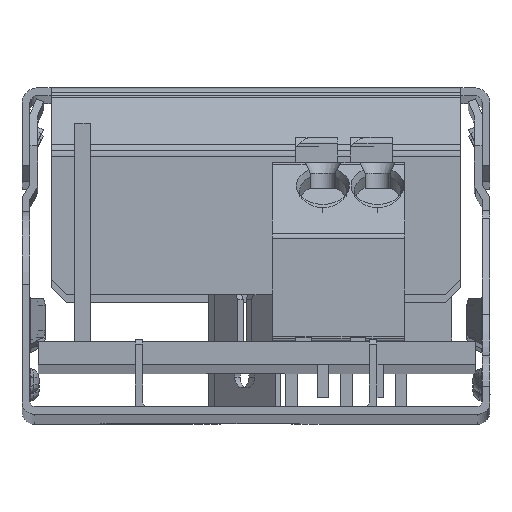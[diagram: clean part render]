
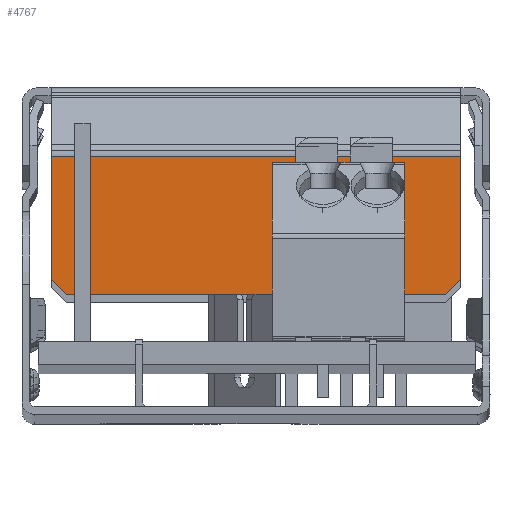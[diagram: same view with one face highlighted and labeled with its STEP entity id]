
A CAD part, top view. The second image highlights one B-rep face of the part: STEP entity #4767.
In plain terms, the highlighted planar face has unit normal (0, 0, 1).
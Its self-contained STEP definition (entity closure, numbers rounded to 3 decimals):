
#331 = LINE ( 'NONE', #15921, #24138 ) ;
#493 = EDGE_CURVE ( 'NONE', #25384, #12499, #12870, .T. ) ;
#2275 = DIRECTION ( 'NONE',  ( -1., 0., 0. ) ) ;
#2654 = CARTESIAN_POINT ( 'NONE',  ( 13.135, 8.735, 517.991 ) ) ;
#3248 = CARTESIAN_POINT ( 'NONE',  ( -13.155, 8.755, 517.991 ) ) ;
#3352 = VECTOR ( 'NONE', #18666, 1000. ) ;
#4262 = CARTESIAN_POINT ( 'NONE',  ( -13.135, 12.176, 517.991 ) ) ;
#4767 = ADVANCED_FACE ( 'NONE', ( #6783 ), #6611, .T. ) ;
#5739 = LINE ( 'NONE', #16182, #8844 ) ;
#5825 = LINE ( 'NONE', #3248, #3352 ) ;
#6611 = PLANE ( 'NONE',  #22374 ) ;
#6642 = ORIENTED_EDGE ( 'NONE', *, *, #8421, .F. ) ;
#6783 = FACE_OUTER_BOUND ( 'NONE', #23264, .T. ) ;
#7802 = EDGE_CURVE ( 'NONE', #25384, #14969, #5739, .T. ) ;
#8421 = EDGE_CURVE ( 'NONE', #14969, #13482, #331, .T. ) ;
#8467 = EDGE_CURVE ( 'NONE', #26275, #11261, #5825, .T. ) ;
#8725 = DIRECTION ( 'NONE',  ( -0.707, -0.707, 0. ) ) ;
#8844 = VECTOR ( 'NONE', #24250, 1000. ) ;
#10533 = CARTESIAN_POINT ( 'NONE',  ( -12.135, 7.735, 517.991 ) ) ;
#11259 = CARTESIAN_POINT ( 'NONE',  ( 12.135, 7.735, 517.991 ) ) ;
#11261 = VERTEX_POINT ( 'NONE', #16477 ) ;
#11882 = VECTOR ( 'NONE', #22433, 1000. ) ;
#12464 = LINE ( 'NONE', #4262, #11882 ) ;
#12476 = VECTOR ( 'NONE', #25581, 1000. ) ;
#12499 = VERTEX_POINT ( 'NONE', #27796 ) ;
#12524 = LINE ( 'NONE', #23180, #12476 ) ;
#12870 = LINE ( 'NONE', #25590, #20278 ) ;
#13375 = ORIENTED_EDGE ( 'NONE', *, *, #7802, .F. ) ;
#13482 = VERTEX_POINT ( 'NONE', #11259 ) ;
#14831 = DIRECTION ( 'NONE',  ( 0., 0., 1. ) ) ;
#14969 = VERTEX_POINT ( 'NONE', #2654 ) ;
#15894 = ORIENTED_EDGE ( 'NONE', *, *, #20220, .F. ) ;
#15921 = CARTESIAN_POINT ( 'NONE',  ( 12.115, 7.715, 517.991 ) ) ;
#16182 = CARTESIAN_POINT ( 'NONE',  ( 13.135, 12.176, 517.991 ) ) ;
#16477 = CARTESIAN_POINT ( 'NONE',  ( -13.135, 8.735, 517.991 ) ) ;
#17065 = CARTESIAN_POINT ( 'NONE',  ( 13.661, 17.01, 517.991 ) ) ;
#18666 = DIRECTION ( 'NONE',  ( -0.707, 0.707, 0. ) ) ;
#20220 = EDGE_CURVE ( 'NONE', #13482, #26275, #12524, .T. ) ;
#20278 = VECTOR ( 'NONE', #2275, 1000. ) ;
#22374 = AXIS2_PLACEMENT_3D ( 'NONE', #17065, #14831, #33389 ) ;
#22433 = DIRECTION ( 'NONE',  ( 0., 1., 0. ) ) ;
#23180 = CARTESIAN_POINT ( 'NONE',  ( 0., 7.735, 517.991 ) ) ;
#23264 = EDGE_LOOP ( 'NONE', ( #29638, #15894, #6642, #13375, #26419, #29594 ) ) ;
#24138 = VECTOR ( 'NONE', #8725, 1000. ) ;
#24250 = DIRECTION ( 'NONE',  ( 0., -1., 0. ) ) ;
#25384 = VERTEX_POINT ( 'NONE', #29235 ) ;
#25581 = DIRECTION ( 'NONE',  ( -1., 0., 0. ) ) ;
#25590 = CARTESIAN_POINT ( 'NONE',  ( 0., 16.617, 517.991 ) ) ;
#26275 = VERTEX_POINT ( 'NONE', #10533 ) ;
#26419 = ORIENTED_EDGE ( 'NONE', *, *, #493, .T. ) ;
#27796 = CARTESIAN_POINT ( 'NONE',  ( -13.135, 16.617, 517.991 ) ) ;
#29235 = CARTESIAN_POINT ( 'NONE',  ( 13.135, 16.617, 517.991 ) ) ;
#29594 = ORIENTED_EDGE ( 'NONE', *, *, #30241, .F. ) ;
#29638 = ORIENTED_EDGE ( 'NONE', *, *, #8467, .F. ) ;
#30241 = EDGE_CURVE ( 'NONE', #11261, #12499, #12464, .T. ) ;
#33389 = DIRECTION ( 'NONE',  ( 1., 0., 0. ) ) ;
